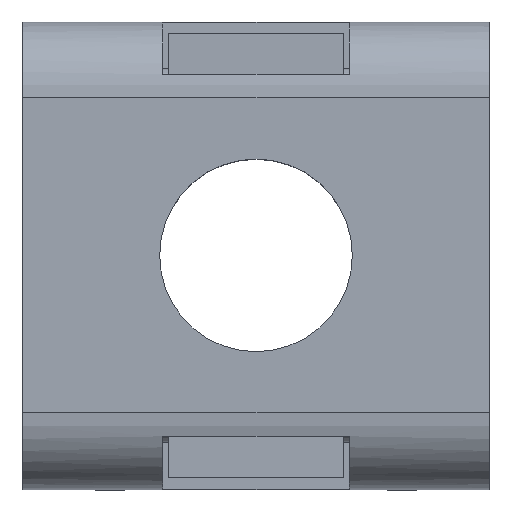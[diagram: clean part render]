
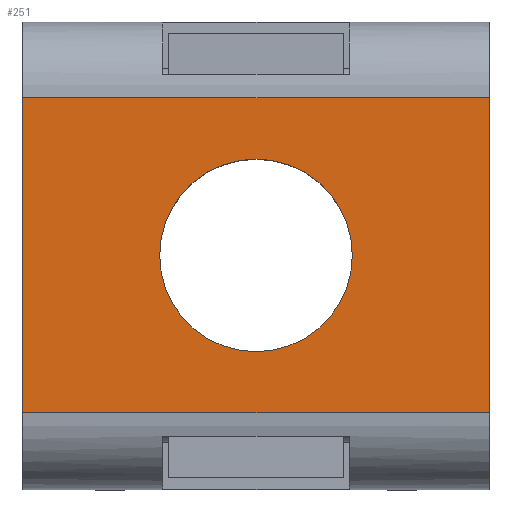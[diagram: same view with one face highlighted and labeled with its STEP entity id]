
A CAD part, top view. The second image highlights one B-rep face of the part: STEP entity #251.
In plain terms, the highlighted planar face has unit normal (0, 0, 1).
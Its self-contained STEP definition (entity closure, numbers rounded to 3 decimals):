
#251=ADVANCED_FACE('',(#395,#396),#317,.F.);
#317=PLANE('',#1751);
#385=CIRCLE('',#1750,1.65);
#395=FACE_BOUND('',#451,.T.);
#396=FACE_BOUND('',#452,.T.);
#451=EDGE_LOOP('',(#816));
#452=EDGE_LOOP('',(#817,#818,#819,#820));
#816=ORIENTED_EDGE('',*,*,#1297,.F.);
#817=ORIENTED_EDGE('',*,*,#1267,.T.);
#818=ORIENTED_EDGE('',*,*,#1210,.F.);
#819=ORIENTED_EDGE('',*,*,#1263,.T.);
#820=ORIENTED_EDGE('',*,*,#1222,.F.);
#1041=VERTEX_POINT('',#2476);
#1042=VERTEX_POINT('',#2478);
#1048=VERTEX_POINT('',#2496);
#1049=VERTEX_POINT('',#2498);
#1084=VERTEX_POINT('',#2633);
#1210=EDGE_CURVE('',#1041,#1042,#1401,.T.);
#1222=EDGE_CURVE('',#1048,#1049,#1407,.T.);
#1263=EDGE_CURVE('',#1041,#1049,#1436,.T.);
#1267=EDGE_CURVE('',#1048,#1042,#1437,.T.);
#1297=EDGE_CURVE('',#1084,#1084,#385,.T.);
#1401=LINE('',#2477,#1567);
#1407=LINE('',#2497,#1573);
#1436=LINE('',#2576,#1602);
#1437=LINE('',#2581,#1603);
#1567=VECTOR('',#1986,1.);
#1573=VECTOR('',#2006,1.);
#1602=VECTOR('',#2075,1.);
#1603=VECTOR('',#2084,1.);
#1750=AXIS2_PLACEMENT_3D('',#2632,#2148,#2149);
#1751=AXIS2_PLACEMENT_3D('',#2634,#2150,#2151);
#1986=DIRECTION('',(0.,-1.,0.));
#2006=DIRECTION('',(0.,1.,0.));
#2075=DIRECTION('',(-1.,0.,0.));
#2084=DIRECTION('',(1.,0.,0.));
#2148=DIRECTION('',(0.,0.,1.));
#2149=DIRECTION('',(1.,0.,0.));
#2150=DIRECTION('',(0.,0.,-1.));
#2151=DIRECTION('',(0.,-1.,0.));
#2476=CARTESIAN_POINT('',(0.,6.7,9.8));
#2477=CARTESIAN_POINT('',(0.,-0.3,9.8));
#2478=CARTESIAN_POINT('',(0.,1.3,9.8));
#2496=CARTESIAN_POINT('',(-8.,1.3,9.8));
#2497=CARTESIAN_POINT('',(-8.,0.507,9.8));
#2498=CARTESIAN_POINT('',(-8.,6.7,9.8));
#2576=CARTESIAN_POINT('',(0.,6.7,9.8));
#2581=CARTESIAN_POINT('',(0.,1.3,9.8));
#2632=CARTESIAN_POINT('',(-4.,4.,9.8));
#2633=CARTESIAN_POINT('',(-2.35,4.,9.8));
#2634=CARTESIAN_POINT('',(0.,-0.3,9.8));
